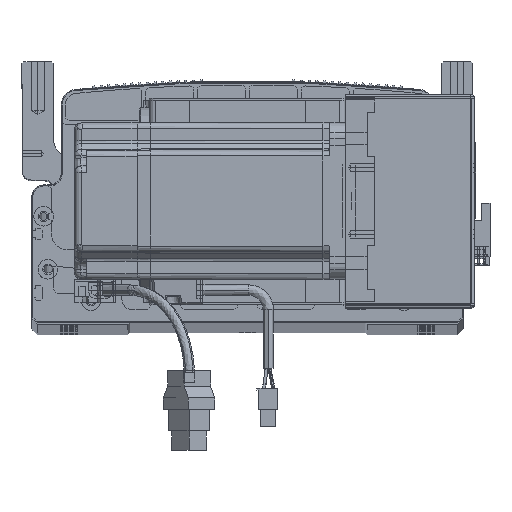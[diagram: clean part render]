
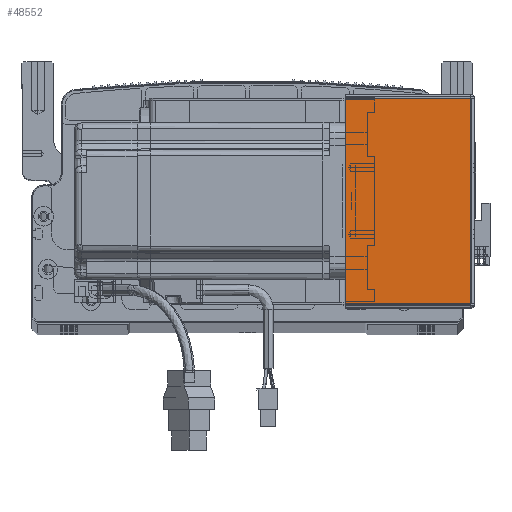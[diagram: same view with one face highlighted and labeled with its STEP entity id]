
A CAD part, top view. The second image highlights one B-rep face of the part: STEP entity #48552.
In plain terms, the highlighted planar face has unit normal (0, 0, 1) as drawn and (0, 0, -1) by its records, which use the part's own axes.
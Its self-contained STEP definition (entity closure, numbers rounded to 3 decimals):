
#828 = DIRECTION ( 'NONE',  ( 0., -1., 0. ) ) ;
#2067 = ORIENTED_EDGE ( 'NONE', *, *, #85018, .T. ) ;
#2761 = CARTESIAN_POINT ( 'NONE',  ( 0.737, 0.707, -205.5 ) ) ;
#2802 = PLANE ( 'NONE',  #16492 ) ;
#11478 = ORIENTED_EDGE ( 'NONE', *, *, #38080, .F. ) ;
#12862 = VERTEX_POINT ( 'NONE', #80566 ) ;
#14026 = LINE ( 'NONE', #38746, #96924 ) ;
#14754 = VERTEX_POINT ( 'NONE', #71606 ) ;
#16492 = AXIS2_PLACEMENT_3D ( 'NONE', #64139, #94408, #79238 ) ;
#17183 = VERTEX_POINT ( 'NONE', #21491 ) ;
#21491 = CARTESIAN_POINT ( 'NONE',  ( 64.5, 0.707, -205.5 ) ) ;
#21762 = LINE ( 'NONE', #42703, #81787 ) ;
#24053 = LINE ( 'NONE', #54158, #91189 ) ;
#27317 = DIRECTION ( 'NONE',  ( 1., 0., 0. ) ) ;
#27656 = VERTEX_POINT ( 'NONE', #2761 ) ;
#38080 = EDGE_CURVE ( 'NONE', #27656, #17183, #24053, .T. ) ;
#38431 = DIRECTION ( 'NONE',  ( 1., 0., 0. ) ) ;
#38746 = CARTESIAN_POINT ( 'NONE',  ( 0.737, 0., -205.5 ) ) ;
#40104 = ORIENTED_EDGE ( 'NONE', *, *, #52380, .T. ) ;
#42703 = CARTESIAN_POINT ( 'NONE',  ( 0., 105.293, -205.5 ) ) ;
#43660 = ORIENTED_EDGE ( 'NONE', *, *, #88256, .F. ) ;
#46684 = EDGE_LOOP ( 'NONE', ( #43660, #2067, #40104, #11478 ) ) ;
#48552 = ADVANCED_FACE ( 'NONE', ( #84474 ), #2802, .F. ) ;
#52380 = EDGE_CURVE ( 'NONE', #14754, #17183, #88813, .T. ) ;
#54158 = CARTESIAN_POINT ( 'NONE',  ( 0., 0.707, -205.5 ) ) ;
#64139 = CARTESIAN_POINT ( 'NONE',  ( 0., 0., -205.5 ) ) ;
#71606 = CARTESIAN_POINT ( 'NONE',  ( 64.5, 105.293, -205.5 ) ) ;
#71777 = CARTESIAN_POINT ( 'NONE',  ( 64.5, 0., -205.5 ) ) ;
#74328 = VECTOR ( 'NONE', #94994, 1000. ) ;
#79238 = DIRECTION ( 'NONE',  ( 1., 0., 0. ) ) ;
#80566 = CARTESIAN_POINT ( 'NONE',  ( 0.737, 105.293, -205.5 ) ) ;
#81787 = VECTOR ( 'NONE', #27317, 1000. ) ;
#84474 = FACE_OUTER_BOUND ( 'NONE', #46684, .T. ) ;
#85018 = EDGE_CURVE ( 'NONE', #12862, #14754, #21762, .T. ) ;
#88256 = EDGE_CURVE ( 'NONE', #12862, #27656, #14026, .T. ) ;
#88813 = LINE ( 'NONE', #71777, #74328 ) ;
#91189 = VECTOR ( 'NONE', #38431, 1000. ) ;
#94408 = DIRECTION ( 'NONE',  ( 0., 0., 1. ) ) ;
#94994 = DIRECTION ( 'NONE',  ( 0., -1., 0. ) ) ;
#96924 = VECTOR ( 'NONE', #828, 1000. ) ;
